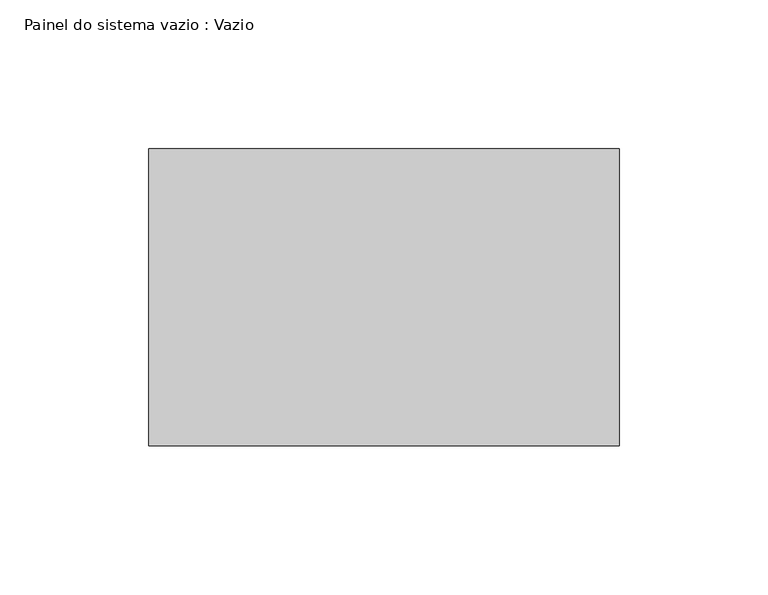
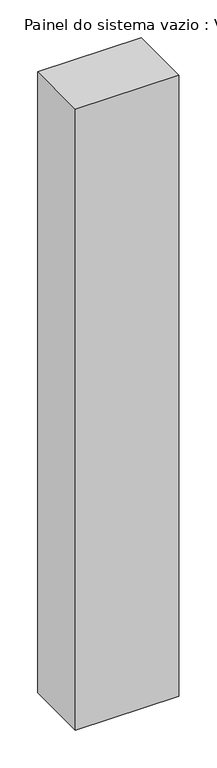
"""IFC4 building model written with IfcOpenShell, lengths in millimetres: plate geometry, Painel do sistema vazio : Vazio."""

from ifc_helpers import new_model, si_unit, origin, origin_with_axes, place, context, project, spatial, polyline, outline, extrude, source, transform, mapped, element, save


def painel_do_sistema_vazio_vazio_411dd57f(model_context):
    return source(origin(), model_context, "Body", "SweptSolid", [
        extrude(outline(polyline([(79.2657295, -50.0), (-79.2657295, -50.0), (-79.2657295, 50.0), (79.2657295, 50.0), (79.2657295, -50.0)])), origin_with_axes(), (0.0, 0.0, 1.0), 1005.0),
    ])


if __name__ == "__main__":
    model = new_model("IFC4")
    model_context = context("Model", 3, world=origin())
    ifc_project = project(units=[si_unit("LENGTHUNIT", "METRE", prefix="MILLI")], contexts=[model_context])
    site = spatial("IfcSite", under=ifc_project)
    building = spatial("IfcBuilding", under=site)
    placement = place(None, origin())
    painel_do_sistema_vazio_vazio_shape = painel_do_sistema_vazio_vazio_411dd57f(model_context)
    element("IfcPlate", 1, ObjectType="Painel do sistema vazio : Vazio", at=placement, inside=building, context=model_context, shape_type="MappedRepresentation", body=[
        mapped(painel_do_sistema_vazio_vazio_shape, transform((0.0, 0.0, 0.0), x_axis=(1.0, 0.0, 0.0), y_axis=(0.0, 1.0, 0.0), z_axis=(0.0, 0.0, 1.0))),
    ])
    save(model, "model.ifc")
